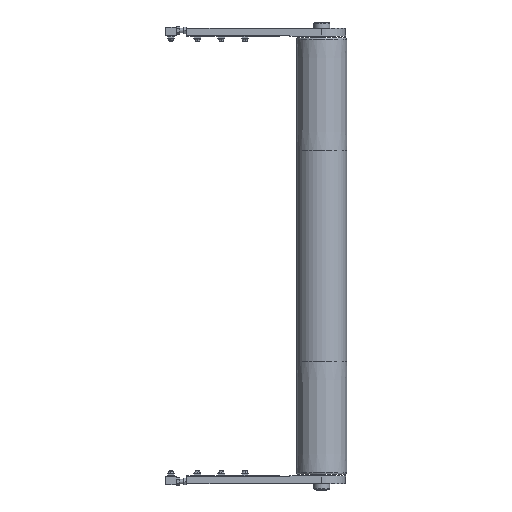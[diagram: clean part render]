
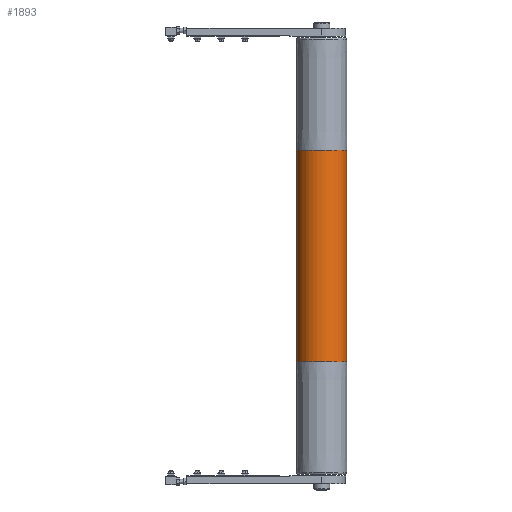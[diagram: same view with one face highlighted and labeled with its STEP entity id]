
A CAD part, front view. The second image highlights one B-rep face of the part: STEP entity #1893.
In plain terms, the highlighted cylindrical face has radius 47.5 mm (diameter 95 mm), a partial arc.
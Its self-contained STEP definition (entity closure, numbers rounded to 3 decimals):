
#1199 = EDGE_CURVE ( 'NONE', #19191, #19183, #6413, .T. ) ;
#1202 = EDGE_CURVE ( 'NONE', #19186, #19182, #6324, .T. ) ;
#1210 = EDGE_CURVE ( 'NONE', #19182, #19183, #6417, .T. ) ;
#1212 = EDGE_CURVE ( 'NONE', #19186, #19191, #6336, .T. ) ;
#1893 = ADVANCED_FACE ( 'NONE', ( #11622 ), #11619, .T. ) ;
#3917 = CARTESIAN_POINT ( 'NONE',  ( 47.5, 0., 200. ) ) ;
#3923 = CARTESIAN_POINT ( 'NONE',  ( -47.5, 0., 200. ) ) ;
#3927 = CARTESIAN_POINT ( 'NONE',  ( 47.5, 0., -200. ) ) ;
#3928 = CARTESIAN_POINT ( 'NONE',  ( -47.5, 0., -200. ) ) ;
#6267 = VECTOR ( 'NONE', #22332, 1000. ) ;
#6324 = LINE ( 'NONE', #22333, #6267 ) ;
#6336 = CIRCLE ( 'NONE', #16907, 47.5 ) ;
#6397 = VECTOR ( 'NONE', #22340, 1000. ) ;
#6413 = LINE ( 'NONE', #22341, #6397 ) ;
#6417 = CIRCLE ( 'NONE', #16905, 47.5 ) ;
#6560 = DIRECTION ( 'NONE',  ( 0., 0., -1. ) ) ;
#6570 = CARTESIAN_POINT ( 'NONE',  ( 0., 0., 410. ) ) ;
#6580 = DIRECTION ( 'NONE',  ( -1., 0., 0. ) ) ;
#11619 = CYLINDRICAL_SURFACE ( 'NONE', #14690, 47.5 ) ;
#11622 = FACE_OUTER_BOUND ( 'NONE', #18748, .T. ) ;
#14690 = AXIS2_PLACEMENT_3D ( 'NONE', #6570, #6560, #6580 ) ;
#16905 = AXIS2_PLACEMENT_3D ( 'NONE', #22304, #22303, #22302 ) ;
#16907 = AXIS2_PLACEMENT_3D ( 'NONE', #22291, #22290, #22289 ) ;
#18748 = EDGE_LOOP ( 'NONE', ( #19500, #19501, #19502, #19503 ) ) ;
#19182 = VERTEX_POINT ( 'NONE', #3928 ) ;
#19183 = VERTEX_POINT ( 'NONE', #3927 ) ;
#19186 = VERTEX_POINT ( 'NONE', #3923 ) ;
#19191 = VERTEX_POINT ( 'NONE', #3917 ) ;
#19500 = ORIENTED_EDGE ( 'NONE', *, *, #1199, .F. ) ;
#19501 = ORIENTED_EDGE ( 'NONE', *, *, #1212, .F. ) ;
#19502 = ORIENTED_EDGE ( 'NONE', *, *, #1202, .T. ) ;
#19503 = ORIENTED_EDGE ( 'NONE', *, *, #1210, .T. ) ;
#22289 = DIRECTION ( 'NONE',  ( 1., 0., 0. ) ) ;
#22290 = DIRECTION ( 'NONE',  ( 0., 0., 1. ) ) ;
#22291 = CARTESIAN_POINT ( 'NONE',  ( 0., 0., 200. ) ) ;
#22302 = DIRECTION ( 'NONE',  ( 1., 0., 0. ) ) ;
#22303 = DIRECTION ( 'NONE',  ( 0., 0., 1. ) ) ;
#22304 = CARTESIAN_POINT ( 'NONE',  ( 0., 0., -200. ) ) ;
#22332 = DIRECTION ( 'NONE',  ( 0., 0., -1. ) ) ;
#22333 = CARTESIAN_POINT ( 'NONE',  ( -47.5, 0., 410. ) ) ;
#22340 = DIRECTION ( 'NONE',  ( 0., 0., -1. ) ) ;
#22341 = CARTESIAN_POINT ( 'NONE',  ( 47.5, 0., 410. ) ) ;
